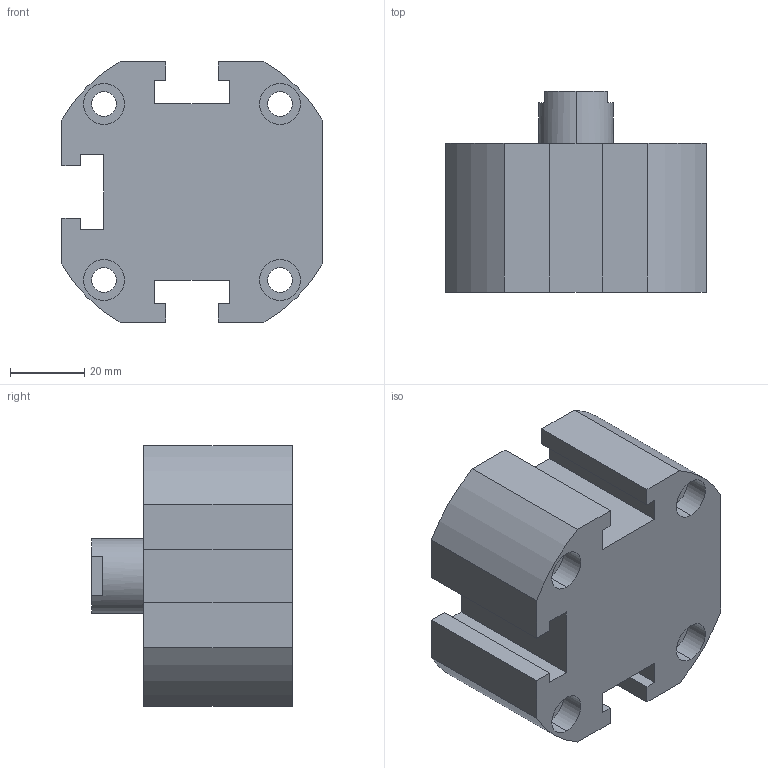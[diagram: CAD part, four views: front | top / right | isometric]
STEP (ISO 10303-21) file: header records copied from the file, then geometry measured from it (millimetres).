
FILE_DESCRIPTION (( 'STEP AP203' ), '1' );
FILE_NAME ('XC#0-50-10.STEP', '2016-05-23T07:07:07', ( '' ), ( '' ), 'SwSTEP 2.0', 'SolidWorks 2014', '' );
FILE_SCHEMA (( 'CONFIG_CONTROL_DESIGN' ));
Length unit declared in the file: millimetre
Products named in the file (1): XC#0-50-10
Bounding box: 70 x 54 x 70 mm (x, y, z)
Volume: 149786.7 mm3; surface area: 27608.2 mm2
Topology: 1 solids, 1 shells, 107 faces, 267 edges, 174 vertices
Faces by surface type: cylinder 52, plane 49, cone 6
Entity records: 3290 total; most frequent: DIRECTION 591, CARTESIAN_POINT 545, ORIENTED_EDGE 526, EDGE_CURVE 263, AXIS2_PLACEMENT_3D 220, VERTEX_POINT 174, VECTOR 151, LINE 151
